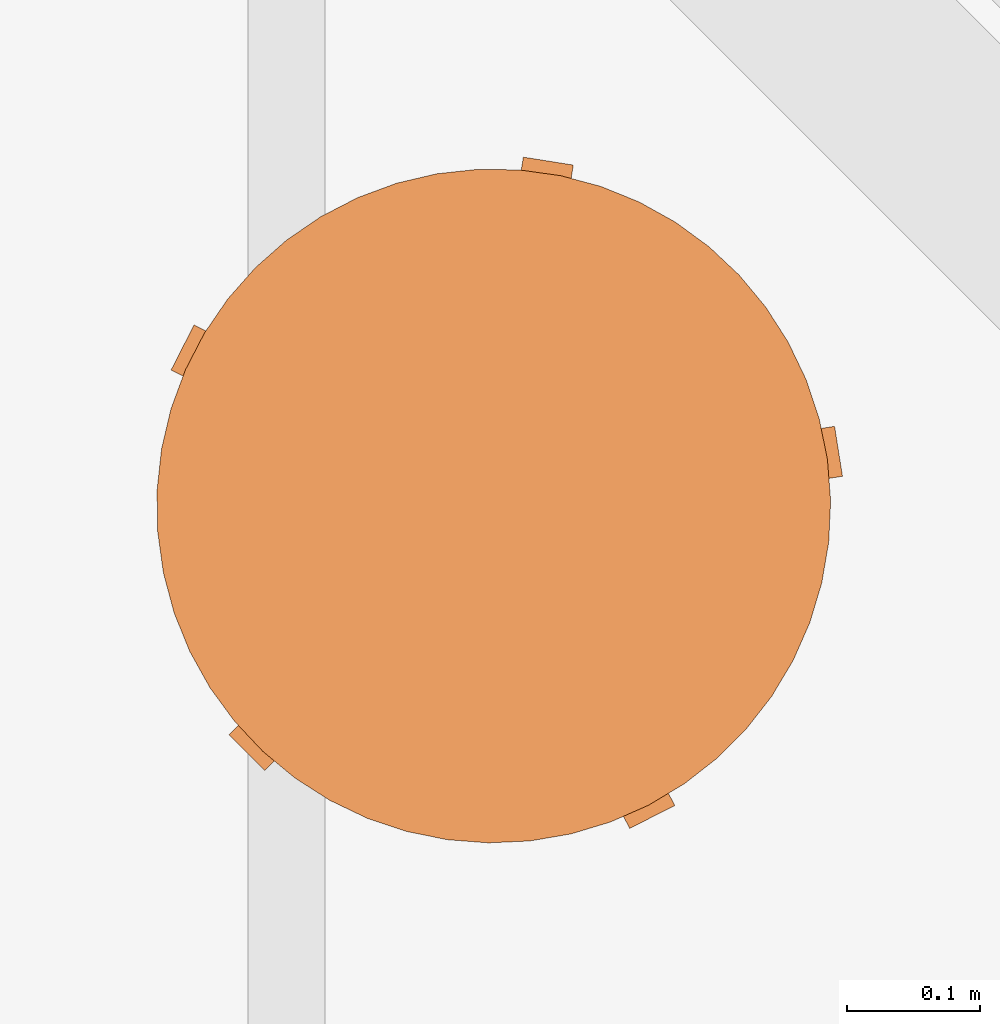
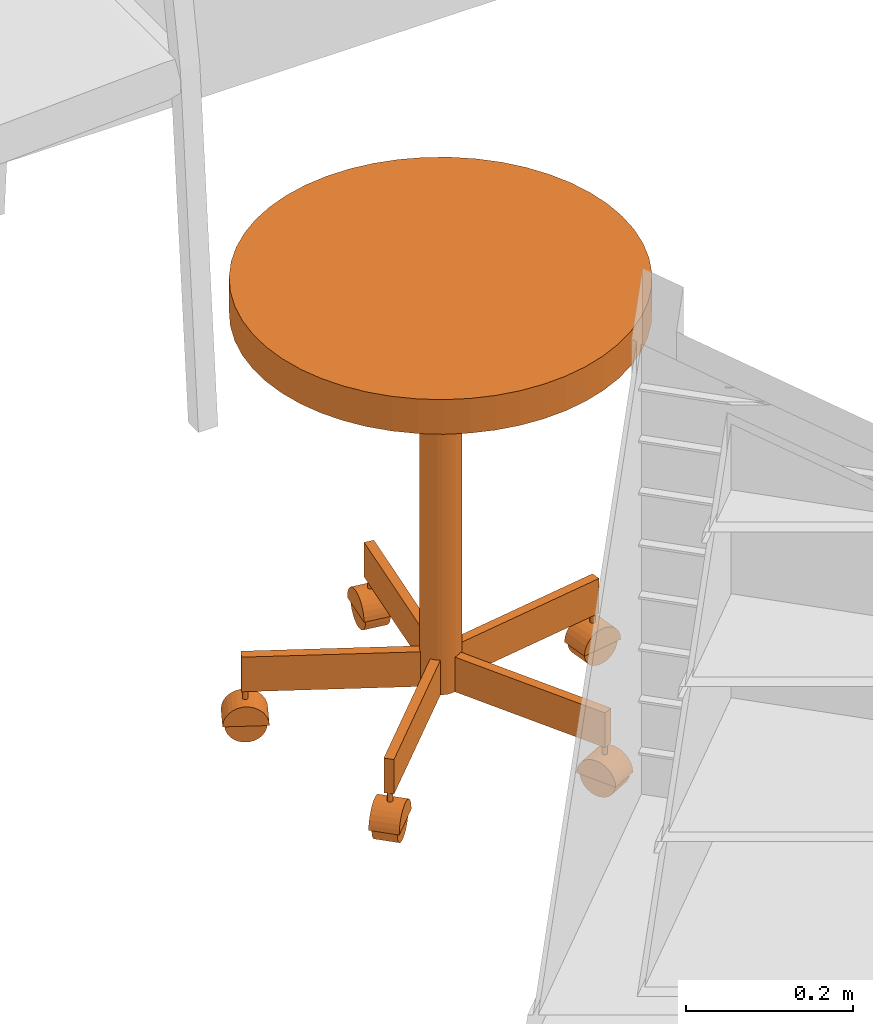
# One storey, part 83 of 142: 1 proxy.
"""IFC2X3 building model written with IfcOpenShell, lengths in feet."""

from ifc_helpers import new_model, entity, si_unit, converted_unit, derived_unit, direction, frame, frame_2d, origin, origin_2d_with_axis, place, context, subcontext, project, spatial, polyline, circle_curve, parameter, trimmed, segment, composite_curve, rectangle, circle, outline, extrude, source, transform, mapped, type_object, type_shapes, element, save


model = new_model("IFC2X3")

# Units and contexts
model_context = context("Model", 3, precision=0.0001, world=origin(), true_north=direction((6.12303176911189e-17, 1.0)))
body_context = subcontext(model_context, "Body", "Model", "MODEL_VIEW")
ifc_project = project(units=[converted_unit("LENGTHUNIT", "FOOT", entity("IfcRatioMeasure", 0.3048), si_unit("LENGTHUNIT", "METRE"), dimensions=[1, 0, 0, 0, 0, 0, 0]), converted_unit("AREAUNIT", "SQUARE FOOT", entity("IfcRatioMeasure", 0.09290304), si_unit("AREAUNIT", "SQUARE_METRE"), dimensions=[2, 0, 0, 0, 0, 0, 0]), converted_unit("VOLUMEUNIT", "CUBIC FOOT", entity("IfcRatioMeasure", 0.028316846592), si_unit("VOLUMEUNIT", "CUBIC_METRE"), dimensions=[3, 0, 0, 0, 0, 0, 0]), converted_unit("PLANEANGLEUNIT", "DEGREE", entity("IfcRatioMeasure", 0.0174532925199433), si_unit("PLANEANGLEUNIT", "RADIAN"), dimensions=[0, 0, 0, 0, 0, 0, 0]), si_unit("MASSUNIT", "GRAM", prefix="KILO"), derived_unit("MASSDENSITYUNIT", [(si_unit("MASSUNIT", "GRAM", prefix="KILO"), 1), (si_unit("LENGTHUNIT", "METRE"), -3)]), si_unit("TIMEUNIT", "SECOND"), si_unit("FREQUENCYUNIT", "HERTZ"), si_unit("THERMODYNAMICTEMPERATUREUNIT", "DEGREE_CELSIUS"), derived_unit("THERMALTRANSMITTANCEUNIT", [(si_unit("MASSUNIT", "GRAM", prefix="KILO"), 1), (si_unit("THERMODYNAMICTEMPERATUREUNIT", "KELVIN"), -1), (si_unit("TIMEUNIT", "SECOND"), -3)]), derived_unit("VOLUMETRICFLOWRATEUNIT", [(si_unit("LENGTHUNIT", "METRE"), 3), (si_unit("TIMEUNIT", "SECOND"), -1)]), si_unit("ELECTRICCURRENTUNIT", "AMPERE"), si_unit("ELECTRICVOLTAGEUNIT", "VOLT"), si_unit("POWERUNIT", "WATT"), si_unit("FORCEUNIT", "NEWTON"), si_unit("ILLUMINANCEUNIT", "LUX"), si_unit("LUMINOUSFLUXUNIT", "LUMEN"), si_unit("LUMINOUSINTENSITYUNIT", "CANDELA"), derived_unit("USERDEFINED", [(si_unit("MASSUNIT", "GRAM", prefix="KILO"), -1), (si_unit("LENGTHUNIT", "METRE"), -2), (si_unit("TIMEUNIT", "SECOND"), 3), (si_unit("LUMINOUSFLUXUNIT", "LUMEN"), 1)]), derived_unit("LINEARVELOCITYUNIT", [(si_unit("LENGTHUNIT", "METRE"), 1), (si_unit("TIMEUNIT", "SECOND"), -1)]), si_unit("PRESSUREUNIT", "PASCAL"), derived_unit("USERDEFINED", [(si_unit("LENGTHUNIT", "METRE"), -2), (si_unit("MASSUNIT", "GRAM", prefix="KILO"), 1), (si_unit("TIMEUNIT", "SECOND"), -2)])], contexts=[model_context])

# Site, building, storey, space
site_placement = place(None, origin())
site = spatial("IfcSite", under=ifc_project, at=site_placement, Name="Default", CompositionType="ELEMENT")
building_placement = place(site_placement, origin())
building = spatial("IfcBuilding", under=site, at=building_placement, Name="OUTPATIENT / PACT CLINIC (Ch. 265)", CompositionType="ELEMENT")
storey_placement = place(building_placement, origin())
storey = spatial("IfcBuildingStorey", under=building, at=storey_placement, Name="LEVEL 1", CompositionType="ELEMENT", Elevation=0.0)
space_placement = place(storey_placement, origin())
space = spatial("IfcSpace", under=storey, at=space_placement, Name="EXW01", CompositionType="ELEMENT", InteriorOrExteriorSpace="INTERNAL")

# Proxy
building_element_proxy_type = type_object("IfcBuildingElementProxyType", Name="F0340 - Stool, Self Adjusting", PredefinedType="NOTDEFINED")
shared_shape = source(origin(), body_context, "Body", "SweptSolid", [
    extrude(circle(Radius=0.084518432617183, at=frame_2d((0.0, -1.38777878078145e-16), x_axis=(1.0, 0.0))), frame((0.717011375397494, 0.287734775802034, 0.0845184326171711), z_axis=(0.309016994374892, -0.951056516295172, 0.0), x_axis=(-0.951056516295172, -0.309016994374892, 0.0)), (0.0, 0.0, 1.0), 0.104166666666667),
    extrude(outline(composite_curve([segment(polyline([(-0.0925649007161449, 0.0), (0.0925649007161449, 0.0)]), True, "CONTINUOUS"), segment(trimmed(circle_curve(origin_2d_with_axis(), 0.0925649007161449), [parameter(2.03555499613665e-13)], [parameter(180.0)], True, "PARAMETER"), True, "CONTINUOUS")], self_intersect=False)), frame((0.752419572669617, 0.178759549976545, 0.0845184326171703), z_axis=(-0.309016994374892, 0.951056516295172, 0.0), x_axis=(-0.951056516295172, -0.309016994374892, 0.0)), (0.0, 0.0, 1.0), 0.125),
    extrude(circle(Radius=0.0115130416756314, at=frame_2d((7.9106571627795e-18, 1.14165428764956e-16), x_axis=(1.0, 0.0))), frame((0.73310678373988, 0.238198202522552, 0.177083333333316), z_axis=(0.0, 0.0, 1.0), x_axis=(0.309016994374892, -0.951056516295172, 0.0)), (0.0, 0.0, 1.0), 0.0442708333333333),
    extrude(rectangle(XDim=0.0416641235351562, YDim=0.7059128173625, at=frame_2d((1.38777878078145e-17, 0.0), x_axis=(1.0, 0.0))), frame((0.412570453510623, 0.134049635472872, 0.221354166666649), z_axis=(0.0, 0.0, 1.0), x_axis=(-0.309016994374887, 0.951056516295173, 0.0)), (0.0, 0.0, 1.0), 0.166666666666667),
    extrude(circle(Radius=0.084518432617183, at=frame_2d((0.0, -3.7470027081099e-16), x_axis=(1.0, 0.0))), frame((0.410948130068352, -0.654231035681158, 0.0845184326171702), z_axis=(0.809016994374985, 0.587785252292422, 0.0), x_axis=(-0.587785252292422, 0.809016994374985, 0.0)), (0.0, 0.0, 1.0), 0.104166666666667),
    extrude(outline(composite_curve([segment(polyline([(-0.0925649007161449, 0.0), (0.0925649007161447, 0.0)]), True, "CONTINUOUS"), segment(trimmed(circle_curve(origin_2d_with_axis(), 0.0925649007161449), [parameter(2.03555499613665e-13)], [parameter(180.0)], True, "PARAMETER"), True, "CONTINUOUS")], self_intersect=False)), frame((0.402520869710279, -0.660353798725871, 0.0845184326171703), z_axis=(0.809016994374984, 0.587785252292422, 0.0), x_axis=(-0.587785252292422, 0.809016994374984, 0.0)), (0.0, 0.0, 1.0), 0.125),
    extrude(circle(Radius=0.0115130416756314, at=origin_2d_with_axis()), frame((0.453082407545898, -0.623618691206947, 0.177083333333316), z_axis=(0.0, 0.0, 1.0), x_axis=(-0.809016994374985, -0.587785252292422, 0.0)), (0.0, 0.0, 1.0), 0.0442708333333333),
    extrude(rectangle(XDim=0.0416641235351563, YDim=0.705912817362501, at=frame_2d((0.0, -1.38777878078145e-16), x_axis=(1.0, 0.0))), frame((0.254980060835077, -0.350954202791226, 0.221354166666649), z_axis=(0.0, 0.0, 1.0), x_axis=(0.809016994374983, 0.587785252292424, 0.0)), (0.0, 0.0, 1.0), 0.166666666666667),
    extrude(circle(Radius=0.084518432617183, at=frame_2d((-3.2628636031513e-17, -1.38777878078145e-16), x_axis=(1.0, 0.0))), frame((-0.410948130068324, -0.654231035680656, 0.0845184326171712), z_axis=(-0.809016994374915, 0.587785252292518, 0.0), x_axis=(0.587785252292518, 0.809016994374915, 0.0)), (0.0, 0.0, 1.0), 0.104166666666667),
    extrude(outline(composite_curve([segment(trimmed(circle_curve(origin_2d_with_axis(), 0.0925649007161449), [parameter(180.0)], [parameter(360.0)], True, "PARAMETER"), True, "CONTINUOUS"), segment(polyline([(0.0925649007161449, 0.0), (-0.0925649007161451, 0.0)]), True, "CONTINUOUS")], self_intersect=False)), frame((-0.402520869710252, -0.66035379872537, 0.0845184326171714), z_axis=(-0.809016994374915, 0.587785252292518, 0.0), x_axis=(0.587785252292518, 0.809016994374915, 0.0)), (0.0, 0.0, 1.0), 0.125),
    extrude(circle(Radius=0.0115130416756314, at=frame_2d((-4.49094647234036e-17, -3.2628636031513e-17), x_axis=(1.0, 0.0))), frame((-0.453086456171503, -0.623615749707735, 0.177083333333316), z_axis=(0.0, 0.0, 1.0), x_axis=(-0.809016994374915, 0.587785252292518, 0.0)), (0.0, 0.0, 1.0), 0.0442708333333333),
    extrude(rectangle(XDim=0.0416641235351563, YDim=0.7059128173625, at=frame_2d((-4.16333634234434e-17, 5.55111512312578e-17), x_axis=(1.0, 0.0))), frame((-0.254984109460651, -0.350951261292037, 0.221354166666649), z_axis=(0.0, 0.0, 1.0), x_axis=(0.809016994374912, -0.587785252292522, 0.0)), (0.0, 0.0, 1.0), 0.166666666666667),
    extrude(circle(Radius=0.084518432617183, at=frame_2d((0.0, -1.38777878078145e-16), x_axis=(1.0, 0.0))), frame((-0.749200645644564, 0.188666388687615, 0.0845184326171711), z_axis=(0.309016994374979, 0.951056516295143, 0.0), x_axis=(0.951056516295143, -0.309016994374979, 0.0)), (0.0, 0.0, 1.0), 0.104166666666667),
    extrude(outline(composite_curve([segment(trimmed(circle_curve(origin_2d_with_axis(), 0.0925649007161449), [parameter(180.0)], [parameter(360.0)], True, "PARAMETER"), True, "CONTINUOUS"), segment(polyline([(0.0925649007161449, 0.0), (-0.0925649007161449, 0.0)]), True, "CONTINUOUS")], self_intersect=False)), frame((-0.752419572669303, 0.178759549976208, 0.0845184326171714), z_axis=(0.309016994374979, 0.951056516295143, 0.0), x_axis=(0.951056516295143, -0.309016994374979, 0.0)), (0.0, 0.0, 1.0), 0.125),
    extrude(circle(Radius=0.0115130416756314, at=frame_2d((7.91065716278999e-18, -1.14165428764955e-16), x_axis=(1.0, 0.0))), frame((-0.733105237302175, 0.238202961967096, 0.177083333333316), z_axis=(0.0, 0.0, 1.0), x_axis=(0.309016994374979, 0.951056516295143, 0.0)), (0.0, 0.0, 1.0), 0.0442708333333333),
    extrude(rectangle(XDim=0.0416641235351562, YDim=0.7059128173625, at=origin_2d_with_axis()), frame((-0.412568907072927, 0.134054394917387, 0.221354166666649), z_axis=(0.0, 0.0, 1.0), x_axis=(-0.309016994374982, -0.951056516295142, 0.0)), (0.0, 0.0, 1.0), 0.166666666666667),
    extrude(circle(Radius=0.084518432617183, at=frame_2d((-1.76415182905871e-31, -1.38777878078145e-16), x_axis=(1.0, 0.0))), frame((-0.0520833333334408, 0.770833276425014, 0.0845184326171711), z_axis=(1.0, 0.0, 0.0), x_axis=(0.0, -1.0, 0.0)), (0.0, 0.0, 1.0), 0.104166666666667),
    extrude(outline(composite_curve([segment(trimmed(circle_curve(origin_2d_with_axis(), 0.0925649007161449), [parameter(180.0)], [parameter(360.0)], True, "PARAMETER"), True, "CONTINUOUS"), segment(polyline([(0.0925649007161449, 0.0), (-0.0925649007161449, 0.0)]), True, "CONTINUOUS")], self_intersect=False)), frame((-0.0625000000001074, 0.770833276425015, 0.0845184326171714), z_axis=(1.0, 0.0, 0.0), x_axis=(0.0, -1.0, 0.0)), (0.0, 0.0, 1.0), 0.125),
    extrude(circle(Radius=0.0115130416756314, at=frame_2d((7.04731412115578e-19, 1.79171670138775e-32), x_axis=(1.0, 0.0))), frame((2.50218814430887e-06, 0.770833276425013, 0.177083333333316)), (0.0, 0.0, 1.0), 0.0442708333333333),
    extrude(rectangle(XDim=0.0416641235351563, YDim=0.7059128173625, at=frame_2d((3.46944695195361e-18, 5.55111512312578e-17), x_axis=(1.0, 0.0))), frame((2.50218813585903e-06, 0.433801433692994, 0.221354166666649), z_axis=(0.0, 0.0, 1.0), x_axis=(-1.0, 0.0, 0.0)), (0.0, 0.0, 1.0), 0.166666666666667),
    extrude(circle(Radius=0.0834863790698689, at=frame_2d((2.89333175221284e-18, -1.34875966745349e-16), x_axis=(1.0, 0.0))), frame((0.0, 0.0, 0.221354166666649)), (0.0, 0.0, 1.0), 1.77864583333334),
    extrude(circle(Radius=0.833333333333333, at=frame_2d((2.28760446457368e-17, -1.34628714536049e-15), x_axis=(1.0, 0.0))), frame((0.0, 0.0, 2.0)), (0.0, 0.0, 1.0), 0.166666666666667),
])
type_shapes(building_element_proxy_type, [shared_shape])
proxy_placement = place(space_placement, frame((441.938311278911, -946.874655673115, 0.0), z_axis=(0.0, 0.0, 1.0), x_axis=(-0.707106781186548, 0.707106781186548, 0.0)))
element("IfcBuildingElementProxy", 1, at=proxy_placement, inside=space, type_object=building_element_proxy_type, Name="F0340 - Stool, Self Adjusting:F0340 - Stool, Self Adjusting", ObjectType="F0340 - Stool, Self Adjusting", context=body_context, shape_type="MappedRepresentation", body=[
    mapped(shared_shape, transform((0.0, 0.0, 0.0), scale=1.0)),
])

save(model, "model.ifc")
